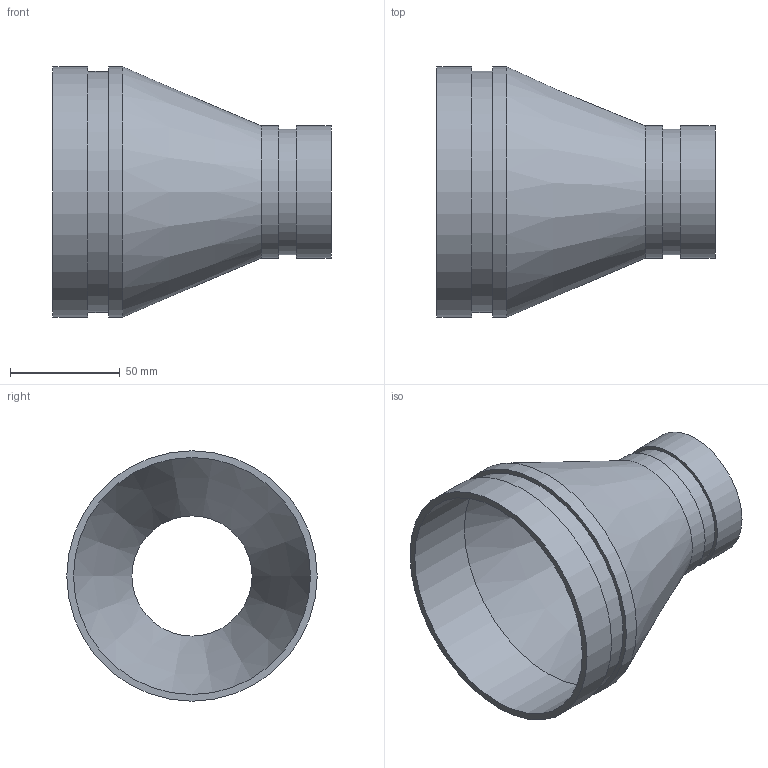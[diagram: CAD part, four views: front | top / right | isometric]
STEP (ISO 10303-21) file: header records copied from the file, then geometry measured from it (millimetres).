
FILE_DESCRIPTION(/* description */ ('VIC REDUCER CONCENTRIC No 450-SS','CAx-IF Rec.Pracs.---Representation and Presentation of Product Manufacturing Information (PMI)---4.0---2014-10-13'),/* implementation_level */ '2;1');
FILE_NAME(/* name */ 'C:\Users\kkamble\AppData\Roaming\Autodesk\ApplicationPlugins\Back Up\Victaulic_SS-OGS_Reducer Concentric_Sched 10S_No 450 SS (OGS)\Victaulic_SS-OGS_Reducer Concentric_Sched 10S_No 450 SS (OGS)_04.0x02.0 (100x50).stp',/* time_stamp */ '2020-09-08T12:32:58+05:00',/* author */ ('CORINNE GRAY'),/* organization */ ('Victaulic'),/* preprocessor_version */ 'ST-DEVELOPER v17.2',/* originating_system */ 'Autodesk Inventor 2019',/* authorisation */ '');
FILE_SCHEMA (('AP242_MANAGED_MODEL_BASED_3D_ENGINEERING_MIM_LF { 1 0 10303 442 1 1 4 }'));
Length unit declared in the file: inch
Products named in the file (1): 450 SS-04.0x02.0
Bounding box: 127 x 114.3 x 114.3 mm (x, y, z)
Volume: 89050.5 mm3; surface area: 73698.2 mm2
Topology: 1 solids, 1 shells, 16 faces, 42 edges, 32 vertices
Faces by surface type: cylinder 8, plane 6, cone 2
Full cylindrical faces by diameter (mm): 54.864 x1, 57.15 x1, 60.325 x2, 108.204 x1, 110.084 x1, 114.3 x2
Entity records: 686 total; most frequent: DIRECTION 134, CARTESIAN_POINT 108, ORIENTED_EDGE 84, AXIS2_PLACEMENT_3D 62, EDGE_CURVE 42, CIRCLE 32, VERTEX_POINT 32, EDGE_LOOP 22
